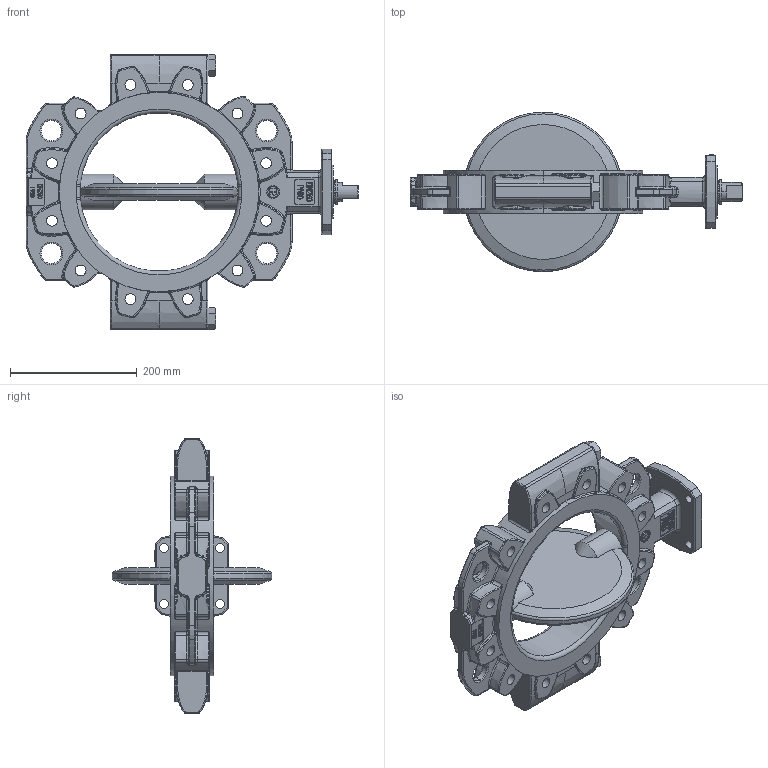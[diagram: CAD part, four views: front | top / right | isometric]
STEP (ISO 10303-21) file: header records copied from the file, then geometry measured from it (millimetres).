
FILE_DESCRIPTION((''),'2;1');
FILE_NAME('9520-00-5105_A_SW0001','2013-09-18T',('smarkstein'),(''),'PRO/ENGINEER BY PARAMETRIC TECHNOLOGY CORPORATION, 2011040','PRO/ENGINEER BY PARAMETRIC TECHNOLOGY CORPORATION, 2011040','');
FILE_SCHEMA(('CONFIG_CONTROL_DESIGN'));
Products named in the file (1): 9520-00-5105_A_SW0001
Bounding box: 524 x 251.92 x 434.64 mm (x, y, z)
Volume: 5780364.3 mm3; surface area: 522094.8 mm2
Topology: 1 solids, 2 shells, 3302 faces, 8950 edges, 5781 vertices
Faces by surface type: plane 2414, torus 314, cylinder 272, bspline 224, extrusion 52, cone 24, sphere 2
Entity records: 115149 total; most frequent: CARTESIAN_POINT 32954, ORIENTED_EDGE 17900, DIRECTION 15759, EDGE_CURVE 8950, VECTOR 7083, LINE 7031, VERTEX_POINT 5781, AXIS2_PLACEMENT_3D 4338
